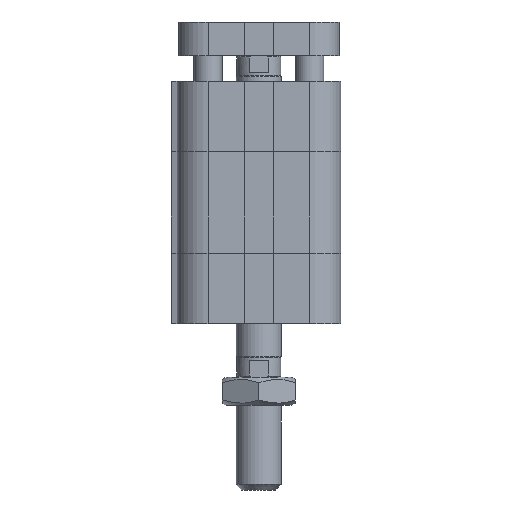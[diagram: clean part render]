
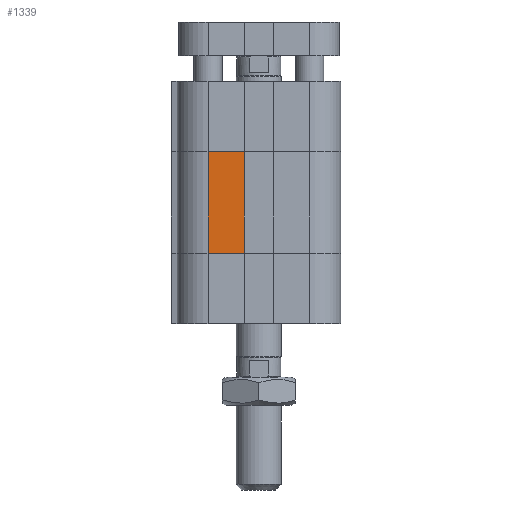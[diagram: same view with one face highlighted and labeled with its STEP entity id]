
A CAD part, left-side view. The second image highlights one B-rep face of the part: STEP entity #1339.
In plain terms, the highlighted planar face has unit normal (-1, 0, 0).
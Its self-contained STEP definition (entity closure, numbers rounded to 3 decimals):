
#1250=CARTESIAN_POINT('',(-14.5,9.,12.5));
#1251=VERTEX_POINT('',#1250);
#1259=CARTESIAN_POINT('',(-14.5,9.,30.5));
#1260=VERTEX_POINT('',#1259);
#1261=CARTESIAN_POINT('',(-14.5,9.,12.5));
#1262=DIRECTION('',(0.0,0.0,1.0));
#1263=VECTOR('',#1262,18.);
#1264=LINE('',#1261,#1263);
#1265=EDGE_CURVE('',#1251,#1260,#1264,.T.);
#1309=CARTESIAN_POINT('',(-14.5,2.6,0.0));
#1310=DIRECTION('',(-1.0,0.0,0.0));
#1311=DIRECTION('',(0.0,0.0,1.0));
#1312=AXIS2_PLACEMENT_3D('',#1309,#1310,#1311);
#1313=PLANE('',#1312);
#1314=CARTESIAN_POINT('',(-14.5,2.6,12.5));
#1315=VERTEX_POINT('',#1314);
#1316=CARTESIAN_POINT('',(-14.5,9.,12.5));
#1317=DIRECTION('',(0.0,-1.0,0.0));
#1318=VECTOR('',#1317,6.4);
#1319=LINE('',#1316,#1318);
#1320=EDGE_CURVE('',#1251,#1315,#1319,.T.);
#1321=ORIENTED_EDGE('',*,*,#1320,.T.);
#1322=CARTESIAN_POINT('',(-14.5,2.6,30.5));
#1323=VERTEX_POINT('',#1322);
#1324=CARTESIAN_POINT('',(-14.5,2.6,12.5));
#1325=DIRECTION('',(0.0,0.0,1.0));
#1326=VECTOR('',#1325,18.);
#1327=LINE('',#1324,#1326);
#1328=EDGE_CURVE('',#1315,#1323,#1327,.T.);
#1329=ORIENTED_EDGE('',*,*,#1328,.T.);
#1330=CARTESIAN_POINT('',(-14.5,9.,30.5));
#1331=DIRECTION('',(0.0,-1.0,0.0));
#1332=VECTOR('',#1331,6.4);
#1333=LINE('',#1330,#1332);
#1334=EDGE_CURVE('',#1260,#1323,#1333,.T.);
#1335=ORIENTED_EDGE('',*,*,#1334,.F.);
#1336=ORIENTED_EDGE('',*,*,#1265,.F.);
#1337=EDGE_LOOP('',(#1321,#1329,#1335,#1336));
#1338=FACE_OUTER_BOUND('',#1337,.T.);
#1339=ADVANCED_FACE('',(#1338),#1313,.T.);
